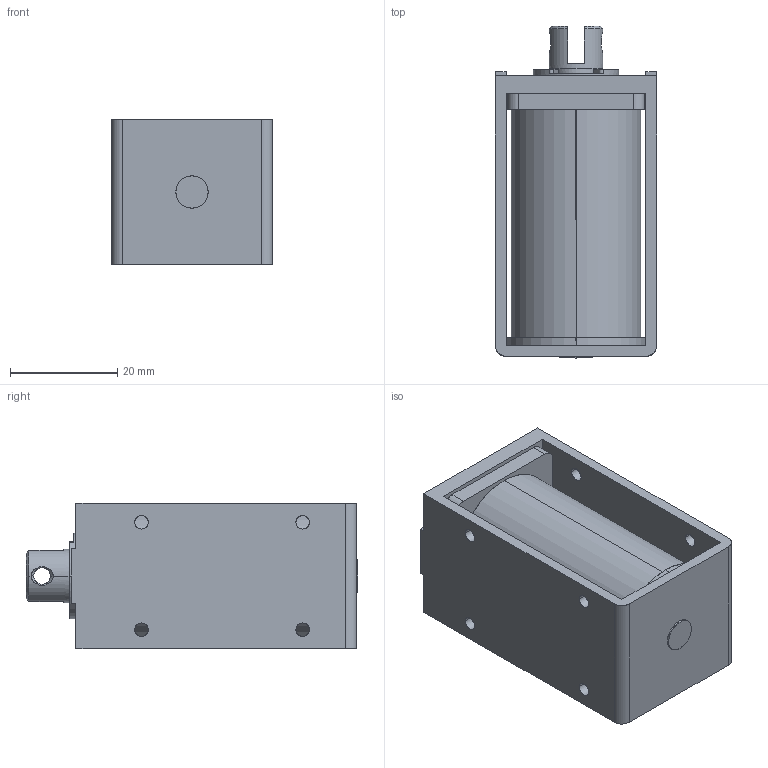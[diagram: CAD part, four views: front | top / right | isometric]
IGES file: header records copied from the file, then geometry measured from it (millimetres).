
Start section: SolidWorks IGES file using analytic representation for surfaces
Global section: file name: L:\カタログ\web用3Dデータ\CA1053\3D_CA1053\w_ca1053.IGS; native system: SolidWorks 2014; preprocessor: SolidWorks 2014; author: jiba; date: 140714.111538; units: millimetre
Bounding box: 30 x 61.8 x 27 mm (x, y, z)
Surface area: 18511.7 mm2 (no closed solid volume)
Topology: 0 solids, 0 shells, 129 faces, 2329 edges, 2329 vertices
Faces by surface type: revolution 75, bspline 54
